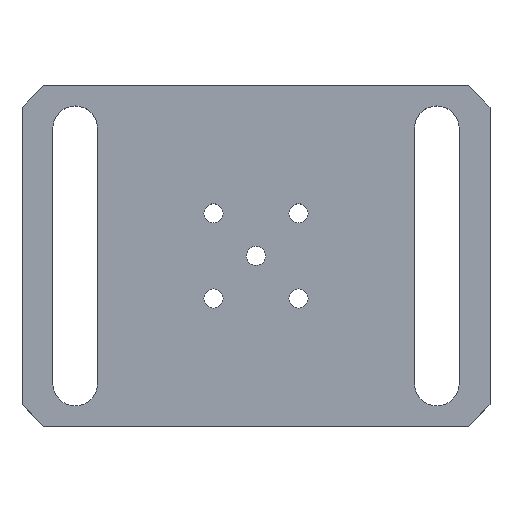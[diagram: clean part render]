
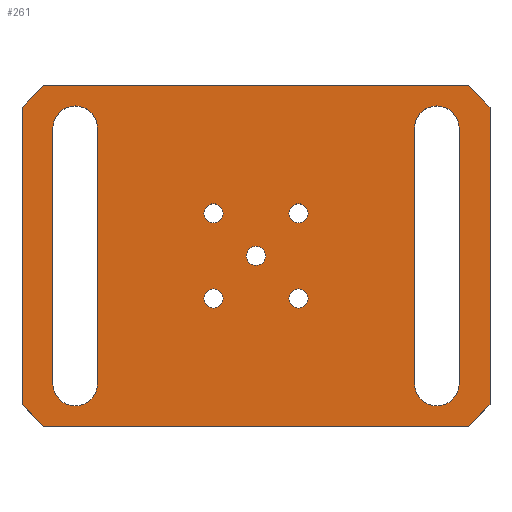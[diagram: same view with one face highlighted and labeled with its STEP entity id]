
A CAD part, top view. The second image highlights one B-rep face of the part: STEP entity #261.
In plain terms, the highlighted planar face has unit normal (0, 0, 1).
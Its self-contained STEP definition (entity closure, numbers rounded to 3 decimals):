
#35=AXIS2_PLACEMENT_3D('Plane Axis2P3D',#32,#33,#34) ;
#105=AXIS2_PLACEMENT_3D('Circle Axis2P3D',#103,#104,$) ;
#114=AXIS2_PLACEMENT_3D('Circle Axis2P3D',#112,#113,$) ;
#123=AXIS2_PLACEMENT_3D('Circle Axis2P3D',#121,#122,$) ;
#139=AXIS2_PLACEMENT_3D('Circle Axis2P3D',#137,#138,$) ;
#157=AXIS2_PLACEMENT_3D('Circle Axis2P3D',#155,#156,$) ;
#173=AXIS2_PLACEMENT_3D('Circle Axis2P3D',#171,#172,$) ;
#191=AXIS2_PLACEMENT_3D('Circle Axis2P3D',#189,#190,$) ;
#200=AXIS2_PLACEMENT_3D('Circle Axis2P3D',#198,#199,$) ;
#209=AXIS2_PLACEMENT_3D('Circle Axis2P3D',#207,#208,$) ;
#218=AXIS2_PLACEMENT_3D('Circle Axis2P3D',#216,#217,$) ;
#227=AXIS2_PLACEMENT_3D('Circle Axis2P3D',#225,#226,$) ;
#236=AXIS2_PLACEMENT_3D('Circle Axis2P3D',#234,#235,$) ;
#245=AXIS2_PLACEMENT_3D('Circle Axis2P3D',#243,#244,$) ;
#254=AXIS2_PLACEMENT_3D('Circle Axis2P3D',#252,#253,$) ;
#32=CARTESIAN_POINT('Axis2P3D Location',(0.,0.,8.)) ;
#37=CARTESIAN_POINT('Line Origine',(55.,-80.,8.)) ;
#41=CARTESIAN_POINT('Vertex',(5.,-80.,8.)) ;
#43=CARTESIAN_POINT('Vertex',(105.,-80.,8.)) ;
#46=CARTESIAN_POINT('Line Origine',(107.5,-77.5,8.)) ;
#50=CARTESIAN_POINT('Vertex',(110.,-75.,8.)) ;
#53=CARTESIAN_POINT('Line Origine',(110.,-40.,8.)) ;
#57=CARTESIAN_POINT('Vertex',(110.,-5.,8.)) ;
#60=CARTESIAN_POINT('Line Origine',(107.5,-2.5,8.)) ;
#64=CARTESIAN_POINT('Vertex',(105.,0.,8.)) ;
#67=CARTESIAN_POINT('Line Origine',(55.,0.,8.)) ;
#71=CARTESIAN_POINT('Vertex',(5.,0.,8.)) ;
#74=CARTESIAN_POINT('Line Origine',(2.5,-2.5,8.)) ;
#78=CARTESIAN_POINT('Vertex',(0.,-5.,8.)) ;
#81=CARTESIAN_POINT('Line Origine',(0.,-40.,8.)) ;
#85=CARTESIAN_POINT('Vertex',(0.,-75.,8.)) ;
#88=CARTESIAN_POINT('Line Origine',(2.5,-77.5,8.)) ;
#103=CARTESIAN_POINT('Axis2P3D Location',(55.,-40.,8.)) ;
#107=CARTESIAN_POINT('Vertex',(57.25,-40.,8.)) ;
#109=CARTESIAN_POINT('Vertex',(52.75,-40.,8.)) ;
#112=CARTESIAN_POINT('Axis2P3D Location',(55.,-40.,8.)) ;
#121=CARTESIAN_POINT('Axis2P3D Location',(12.5,-70.,8.)) ;
#125=CARTESIAN_POINT('Vertex',(7.25,-70.,8.)) ;
#127=CARTESIAN_POINT('Vertex',(17.75,-70.,8.)) ;
#130=CARTESIAN_POINT('Line Origine',(7.25,-40.,8.)) ;
#134=CARTESIAN_POINT('Vertex',(7.25,-10.,8.)) ;
#137=CARTESIAN_POINT('Axis2P3D Location',(12.5,-10.,8.)) ;
#141=CARTESIAN_POINT('Vertex',(17.75,-10.,8.)) ;
#144=CARTESIAN_POINT('Line Origine',(17.75,-40.,8.)) ;
#155=CARTESIAN_POINT('Axis2P3D Location',(97.5,-70.,8.)) ;
#159=CARTESIAN_POINT('Vertex',(92.25,-70.,8.)) ;
#161=CARTESIAN_POINT('Vertex',(102.75,-70.,8.)) ;
#164=CARTESIAN_POINT('Line Origine',(92.25,-40.,8.)) ;
#168=CARTESIAN_POINT('Vertex',(92.25,-10.,8.)) ;
#171=CARTESIAN_POINT('Axis2P3D Location',(97.5,-10.,8.)) ;
#175=CARTESIAN_POINT('Vertex',(102.75,-10.,8.)) ;
#178=CARTESIAN_POINT('Line Origine',(102.75,-40.,8.)) ;
#189=CARTESIAN_POINT('Axis2P3D Location',(45.,-50.,8.)) ;
#193=CARTESIAN_POINT('Vertex',(42.75,-50.,8.)) ;
#195=CARTESIAN_POINT('Vertex',(47.25,-50.,8.)) ;
#198=CARTESIAN_POINT('Axis2P3D Location',(45.,-50.,8.)) ;
#207=CARTESIAN_POINT('Axis2P3D Location',(65.,-50.,8.)) ;
#211=CARTESIAN_POINT('Vertex',(62.75,-50.,8.)) ;
#213=CARTESIAN_POINT('Vertex',(67.25,-50.,8.)) ;
#216=CARTESIAN_POINT('Axis2P3D Location',(65.,-50.,8.)) ;
#225=CARTESIAN_POINT('Axis2P3D Location',(45.,-30.,8.)) ;
#229=CARTESIAN_POINT('Vertex',(42.75,-30.,8.)) ;
#231=CARTESIAN_POINT('Vertex',(47.25,-30.,8.)) ;
#234=CARTESIAN_POINT('Axis2P3D Location',(45.,-30.,8.)) ;
#243=CARTESIAN_POINT('Axis2P3D Location',(65.,-30.,8.)) ;
#247=CARTESIAN_POINT('Vertex',(62.75,-30.,8.)) ;
#249=CARTESIAN_POINT('Vertex',(67.25,-30.,8.)) ;
#252=CARTESIAN_POINT('Axis2P3D Location',(65.,-30.,8.)) ;
#33=DIRECTION('Axis2P3D Direction',(0.,0.,1.)) ;
#34=DIRECTION('Axis2P3D XDirection',(1.,0.,0.)) ;
#38=DIRECTION('Vector Direction',(-1.,0.,0.)) ;
#47=DIRECTION('Vector Direction',(-0.707,-0.707,0.)) ;
#54=DIRECTION('Vector Direction',(0.,1.,0.)) ;
#61=DIRECTION('Vector Direction',(0.707,-0.707,0.)) ;
#68=DIRECTION('Vector Direction',(1.,0.,0.)) ;
#75=DIRECTION('Vector Direction',(0.707,0.707,0.)) ;
#82=DIRECTION('Vector Direction',(0.,-1.,0.)) ;
#89=DIRECTION('Vector Direction',(0.707,-0.707,0.)) ;
#104=DIRECTION('Axis2P3D Direction',(0.,0.,1.)) ;
#113=DIRECTION('Axis2P3D Direction',(0.,0.,1.)) ;
#122=DIRECTION('Axis2P3D Direction',(0.,0.,1.)) ;
#131=DIRECTION('Vector Direction',(0.,1.,0.)) ;
#138=DIRECTION('Axis2P3D Direction',(0.,0.,1.)) ;
#145=DIRECTION('Vector Direction',(0.,-1.,0.)) ;
#156=DIRECTION('Axis2P3D Direction',(0.,0.,1.)) ;
#165=DIRECTION('Vector Direction',(0.,1.,0.)) ;
#172=DIRECTION('Axis2P3D Direction',(0.,0.,1.)) ;
#179=DIRECTION('Vector Direction',(0.,-1.,0.)) ;
#190=DIRECTION('Axis2P3D Direction',(0.,0.,1.)) ;
#199=DIRECTION('Axis2P3D Direction',(0.,0.,1.)) ;
#208=DIRECTION('Axis2P3D Direction',(0.,0.,1.)) ;
#217=DIRECTION('Axis2P3D Direction',(0.,0.,1.)) ;
#226=DIRECTION('Axis2P3D Direction',(0.,0.,1.)) ;
#235=DIRECTION('Axis2P3D Direction',(0.,0.,1.)) ;
#244=DIRECTION('Axis2P3D Direction',(0.,0.,1.)) ;
#253=DIRECTION('Axis2P3D Direction',(0.,0.,1.)) ;
#39=VECTOR('Line Direction',#38,1.) ;
#48=VECTOR('Line Direction',#47,1.) ;
#55=VECTOR('Line Direction',#54,1.) ;
#62=VECTOR('Line Direction',#61,1.) ;
#69=VECTOR('Line Direction',#68,1.) ;
#76=VECTOR('Line Direction',#75,1.) ;
#83=VECTOR('Line Direction',#82,1.) ;
#90=VECTOR('Line Direction',#89,1.) ;
#132=VECTOR('Line Direction',#131,1.) ;
#146=VECTOR('Line Direction',#145,1.) ;
#166=VECTOR('Line Direction',#165,1.) ;
#180=VECTOR('Line Direction',#179,1.) ;
#94=ORIENTED_EDGE('',*,*,#45,.T.) ;
#95=ORIENTED_EDGE('',*,*,#52,.F.) ;
#96=ORIENTED_EDGE('',*,*,#59,.T.) ;
#97=ORIENTED_EDGE('',*,*,#66,.F.) ;
#98=ORIENTED_EDGE('',*,*,#73,.T.) ;
#99=ORIENTED_EDGE('',*,*,#80,.F.) ;
#100=ORIENTED_EDGE('',*,*,#87,.T.) ;
#101=ORIENTED_EDGE('',*,*,#92,.F.) ;
#118=ORIENTED_EDGE('',*,*,#111,.F.) ;
#119=ORIENTED_EDGE('',*,*,#116,.F.) ;
#150=ORIENTED_EDGE('',*,*,#129,.F.) ;
#151=ORIENTED_EDGE('',*,*,#136,.F.) ;
#152=ORIENTED_EDGE('',*,*,#143,.F.) ;
#153=ORIENTED_EDGE('',*,*,#148,.F.) ;
#184=ORIENTED_EDGE('',*,*,#163,.F.) ;
#185=ORIENTED_EDGE('',*,*,#170,.F.) ;
#186=ORIENTED_EDGE('',*,*,#177,.F.) ;
#187=ORIENTED_EDGE('',*,*,#182,.F.) ;
#204=ORIENTED_EDGE('',*,*,#197,.F.) ;
#205=ORIENTED_EDGE('',*,*,#202,.F.) ;
#222=ORIENTED_EDGE('',*,*,#215,.F.) ;
#223=ORIENTED_EDGE('',*,*,#220,.F.) ;
#240=ORIENTED_EDGE('',*,*,#233,.F.) ;
#241=ORIENTED_EDGE('',*,*,#238,.F.) ;
#258=ORIENTED_EDGE('',*,*,#251,.F.) ;
#259=ORIENTED_EDGE('',*,*,#256,.F.) ;
#120=FACE_BOUND('',#117,.T.) ;
#154=FACE_BOUND('',#149,.T.) ;
#188=FACE_BOUND('',#183,.T.) ;
#206=FACE_BOUND('',#203,.T.) ;
#224=FACE_BOUND('',#221,.T.) ;
#242=FACE_BOUND('',#239,.T.) ;
#260=FACE_BOUND('',#257,.T.) ;
#261=ADVANCED_FACE('\X2\96F64EF651E04F554F53\X0\',(#102,#120,#154,#188,#206,#224,#242,#260),#36,.T.) ;
#106=CIRCLE('generated circle',#105,2.25) ;
#115=CIRCLE('generated circle',#114,2.25) ;
#124=CIRCLE('generated circle',#123,5.25) ;
#140=CIRCLE('generated circle',#139,5.25) ;
#158=CIRCLE('generated circle',#157,5.25) ;
#174=CIRCLE('generated circle',#173,5.25) ;
#192=CIRCLE('generated circle',#191,2.25) ;
#201=CIRCLE('generated circle',#200,2.25) ;
#210=CIRCLE('generated circle',#209,2.25) ;
#219=CIRCLE('generated circle',#218,2.25) ;
#228=CIRCLE('generated circle',#227,2.25) ;
#237=CIRCLE('generated circle',#236,2.25) ;
#246=CIRCLE('generated circle',#245,2.25) ;
#255=CIRCLE('generated circle',#254,2.25) ;
#45=EDGE_CURVE('',#42,#44,#40,.F.) ;
#52=EDGE_CURVE('',#51,#44,#49,.T.) ;
#59=EDGE_CURVE('',#51,#58,#56,.T.) ;
#66=EDGE_CURVE('',#65,#58,#63,.T.) ;
#73=EDGE_CURVE('',#65,#72,#70,.F.) ;
#80=EDGE_CURVE('',#79,#72,#77,.T.) ;
#87=EDGE_CURVE('',#79,#86,#84,.T.) ;
#92=EDGE_CURVE('',#42,#86,#91,.F.) ;
#111=EDGE_CURVE('',#108,#110,#106,.T.) ;
#116=EDGE_CURVE('',#110,#108,#115,.T.) ;
#129=EDGE_CURVE('',#126,#128,#124,.T.) ;
#136=EDGE_CURVE('',#135,#126,#133,.F.) ;
#143=EDGE_CURVE('',#142,#135,#140,.T.) ;
#148=EDGE_CURVE('',#128,#142,#147,.F.) ;
#163=EDGE_CURVE('',#160,#162,#158,.T.) ;
#170=EDGE_CURVE('',#169,#160,#167,.F.) ;
#177=EDGE_CURVE('',#176,#169,#174,.T.) ;
#182=EDGE_CURVE('',#162,#176,#181,.F.) ;
#197=EDGE_CURVE('',#194,#196,#192,.T.) ;
#202=EDGE_CURVE('',#196,#194,#201,.T.) ;
#215=EDGE_CURVE('',#212,#214,#210,.T.) ;
#220=EDGE_CURVE('',#214,#212,#219,.T.) ;
#233=EDGE_CURVE('',#230,#232,#228,.T.) ;
#238=EDGE_CURVE('',#232,#230,#237,.T.) ;
#251=EDGE_CURVE('',#248,#250,#246,.T.) ;
#256=EDGE_CURVE('',#250,#248,#255,.T.) ;
#93=EDGE_LOOP('',(#94,#95,#96,#97,#98,#99,#100,#101)) ;
#117=EDGE_LOOP('',(#118,#119)) ;
#149=EDGE_LOOP('',(#150,#151,#152,#153)) ;
#183=EDGE_LOOP('',(#184,#185,#186,#187)) ;
#203=EDGE_LOOP('',(#204,#205)) ;
#221=EDGE_LOOP('',(#222,#223)) ;
#239=EDGE_LOOP('',(#240,#241)) ;
#257=EDGE_LOOP('',(#258,#259)) ;
#102=FACE_OUTER_BOUND('',#93,.T.) ;
#40=LINE('Line',#37,#39) ;
#49=LINE('Line',#46,#48) ;
#56=LINE('Line',#53,#55) ;
#63=LINE('Line',#60,#62) ;
#70=LINE('Line',#67,#69) ;
#77=LINE('Line',#74,#76) ;
#84=LINE('Line',#81,#83) ;
#91=LINE('Line',#88,#90) ;
#133=LINE('Line',#130,#132) ;
#147=LINE('Line',#144,#146) ;
#167=LINE('Line',#164,#166) ;
#181=LINE('Line',#178,#180) ;
#36=PLANE('',#35) ;
#42=VERTEX_POINT('',#41) ;
#44=VERTEX_POINT('',#43) ;
#51=VERTEX_POINT('',#50) ;
#58=VERTEX_POINT('',#57) ;
#65=VERTEX_POINT('',#64) ;
#72=VERTEX_POINT('',#71) ;
#79=VERTEX_POINT('',#78) ;
#86=VERTEX_POINT('',#85) ;
#108=VERTEX_POINT('',#107) ;
#110=VERTEX_POINT('',#109) ;
#126=VERTEX_POINT('',#125) ;
#128=VERTEX_POINT('',#127) ;
#135=VERTEX_POINT('',#134) ;
#142=VERTEX_POINT('',#141) ;
#160=VERTEX_POINT('',#159) ;
#162=VERTEX_POINT('',#161) ;
#169=VERTEX_POINT('',#168) ;
#176=VERTEX_POINT('',#175) ;
#194=VERTEX_POINT('',#193) ;
#196=VERTEX_POINT('',#195) ;
#212=VERTEX_POINT('',#211) ;
#214=VERTEX_POINT('',#213) ;
#230=VERTEX_POINT('',#229) ;
#232=VERTEX_POINT('',#231) ;
#248=VERTEX_POINT('',#247) ;
#250=VERTEX_POINT('',#249) ;
